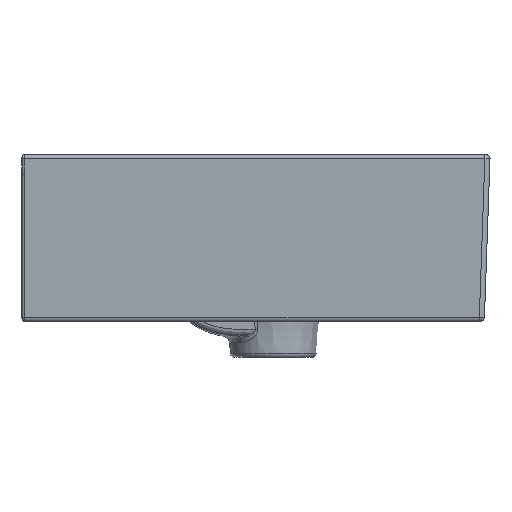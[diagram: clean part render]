
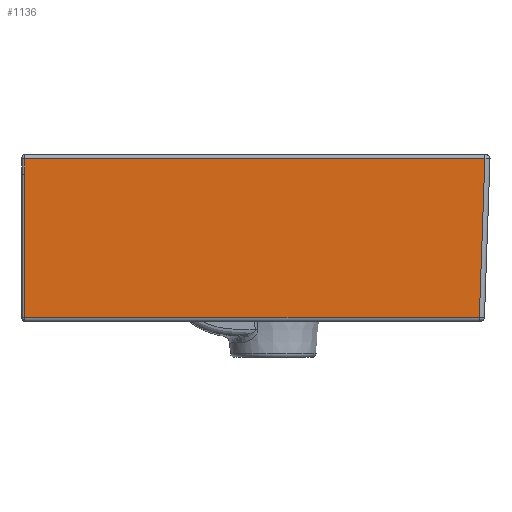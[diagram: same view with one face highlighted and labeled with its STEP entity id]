
A CAD part, left-side view. The second image highlights one B-rep face of the part: STEP entity #1136.
In plain terms, the highlighted planar face has unit normal (-1, 0, -0.018).
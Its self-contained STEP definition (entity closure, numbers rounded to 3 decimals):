
#1136=ADVANCED_FACE('',(#1624),#1562,.F.);
#1562=PLANE('',#6968);
#1624=FACE_OUTER_BOUND('',#2063,.T.);
#2063=EDGE_LOOP('',(#3149,#3150,#3151,#3152,#3153));
#2538=LINE('',#8732,#2689);
#2596=LINE('',#19566,#2747);
#2597=LINE('',#19568,#2748);
#2598=LINE('',#19570,#2749);
#2599=LINE('',#19572,#2750);
#2689=VECTOR('',#7495,1.);
#2747=VECTOR('',#7675,1.);
#2748=VECTOR('',#7676,1.);
#2749=VECTOR('',#7677,1.);
#2750=VECTOR('',#7678,1.);
#3149=ORIENTED_EDGE('',*,*,#5577,.T.);
#3150=ORIENTED_EDGE('',*,*,#5835,.T.);
#3151=ORIENTED_EDGE('',*,*,#5836,.T.);
#3152=ORIENTED_EDGE('',*,*,#5837,.T.);
#3153=ORIENTED_EDGE('',*,*,#5838,.T.);
#4943=VERTEX_POINT('',#8731);
#4944=VERTEX_POINT('',#8733);
#5186=VERTEX_POINT('',#19567);
#5187=VERTEX_POINT('',#19569);
#5188=VERTEX_POINT('',#19571);
#5577=EDGE_CURVE('',#4944,#4943,#2538,.T.);
#5835=EDGE_CURVE('',#4943,#5186,#2596,.T.);
#5836=EDGE_CURVE('',#5186,#5187,#2597,.T.);
#5837=EDGE_CURVE('',#5187,#5188,#2598,.T.);
#5838=EDGE_CURVE('',#5188,#4944,#2599,.T.);
#6968=AXIS2_PLACEMENT_3D('',#19573,#7679,#7680);
#7495=DIRECTION('',(0.017,0.,-1.));
#7675=DIRECTION('',(0.017,0.,-1.));
#7676=DIRECTION('',(0.,-1.,0.));
#7677=DIRECTION('',(-0.017,-0.035,0.999));
#7678=DIRECTION('',(0.,1.,0.));
#7679=DIRECTION('',(1.,0.,0.017));
#7680=DIRECTION('',(0.017,0.,-1.));
#8731=CARTESIAN_POINT('',(-399.73,-2.,-15.451));
#8732=CARTESIAN_POINT('',(-400.,-2.,0.));
#8733=CARTESIAN_POINT('',(-399.947,-2.,-3.052));
#19566=CARTESIAN_POINT('',(-400.,-2.,0.));
#19567=CARTESIAN_POINT('',(-397.782,-2.,-127.052));
#19568=CARTESIAN_POINT('',(-397.782,-27.3,-127.052));
#19569=CARTESIAN_POINT('',(-397.782,-356.563,-127.052));
#19570=CARTESIAN_POINT('',(-399.891,-360.783,-6.224));
#19571=CARTESIAN_POINT('',(-399.947,-360.893,-3.052));
#19572=CARTESIAN_POINT('',(-399.947,-182.5,-3.052));
#19573=CARTESIAN_POINT('',(-400.,-182.5,0.));
